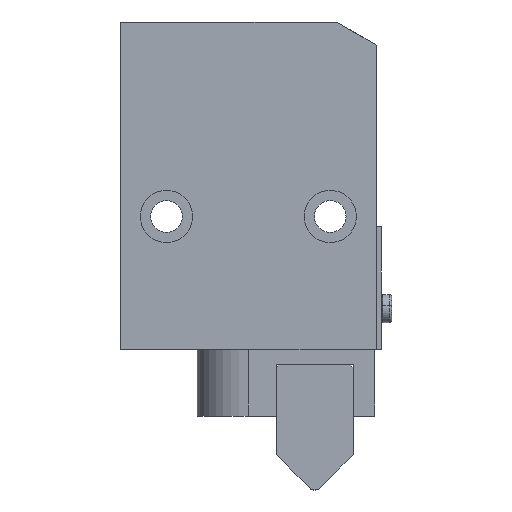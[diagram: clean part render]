
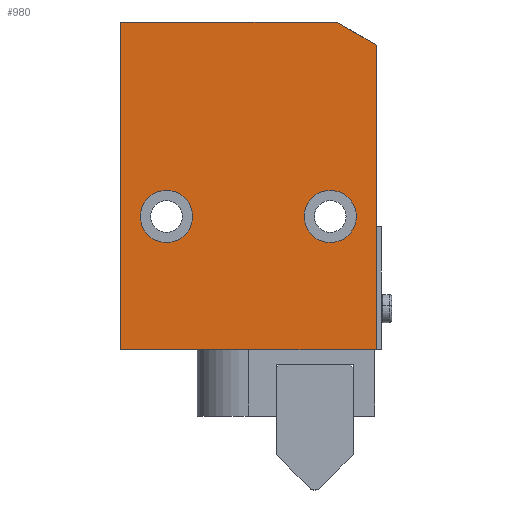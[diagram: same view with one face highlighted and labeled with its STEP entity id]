
A CAD part, front view. The second image highlights one B-rep face of the part: STEP entity #980.
In plain terms, the highlighted planar face has unit normal (0, -1, 0).
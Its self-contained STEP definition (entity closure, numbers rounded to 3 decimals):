
#2 = DIRECTION ( 'NONE',  ( 0., 1., 0. ) ) ;
#40 = LINE ( 'NONE', #1524, #3061 ) ;
#72 = EDGE_CURVE ( 'NONE', #3606, #411, #3096, .T. ) ;
#157 = DIRECTION ( 'NONE',  ( 0., 0., -1. ) ) ;
#175 = FACE_BOUND ( 'NONE', #3294, .T. ) ;
#400 = ORIENTED_EDGE ( 'NONE', *, *, #769, .T. ) ;
#411 = VERTEX_POINT ( 'NONE', #3005 ) ;
#425 = FACE_BOUND ( 'NONE', #3726, .T. ) ;
#431 = CARTESIAN_POINT ( 'NONE',  ( 4.206, -11.416, 72.4 ) ) ;
#454 = EDGE_CURVE ( 'NONE', #4118, #2505, #2603, .T. ) ;
#556 = CARTESIAN_POINT ( 'NONE',  ( 36.206, -11.416, 82.6 ) ) ;
#680 = EDGE_LOOP ( 'NONE', ( #2734, #3540, #5231, #2889, #4464 ) ) ;
#690 = PLANE ( 'NONE',  #1333 ) ;
#769 = EDGE_CURVE ( 'NONE', #2505, #4118, #1897, .T. ) ;
#980 = ADVANCED_FACE ( 'NONE', ( #3306, #175, #425 ), #690, .T. ) ;
#1025 = EDGE_CURVE ( 'NONE', #411, #2644, #40, .T. ) ;
#1134 = CARTESIAN_POINT ( 'NONE',  ( 45.206, -11.416, 115.5 ) ) ;
#1289 = CARTESIAN_POINT ( 'NONE',  ( 45.206, -11.416, 111. ) ) ;
#1327 = AXIS2_PLACEMENT_3D ( 'NONE', #1780, #4664, #2198 ) ;
#1333 = AXIS2_PLACEMENT_3D ( 'NONE', #3542, #3951, #1507 ) ;
#1476 = AXIS2_PLACEMENT_3D ( 'NONE', #4179, #1721, #4605 ) ;
#1507 = DIRECTION ( 'NONE',  ( 0., 0., -1. ) ) ;
#1524 = CARTESIAN_POINT ( 'NONE',  ( -4.794, -11.416, 51.5 ) ) ;
#1721 = DIRECTION ( 'NONE',  ( 0., 1., 0. ) ) ;
#1780 = CARTESIAN_POINT ( 'NONE',  ( 4.206, -11.416, 77.5 ) ) ;
#1897 = CIRCLE ( 'NONE', #4854, 5.1 ) ;
#1943 = VERTEX_POINT ( 'NONE', #3132 ) ;
#1989 = LINE ( 'NONE', #1134, #2955 ) ;
#2016 = EDGE_CURVE ( 'NONE', #1943, #3606, #2625, .T. ) ;
#2027 = DIRECTION ( 'NONE',  ( -1., 0., 0. ) ) ;
#2198 = DIRECTION ( 'NONE',  ( 0., 0., -1. ) ) ;
#2241 = DIRECTION ( 'NONE',  ( 0., 1., 0. ) ) ;
#2335 = CIRCLE ( 'NONE', #1327, 5.1 ) ;
#2457 = CARTESIAN_POINT ( 'NONE',  ( 36.206, -11.416, 77.5 ) ) ;
#2505 = VERTEX_POINT ( 'NONE', #4190 ) ;
#2603 = CIRCLE ( 'NONE', #5246, 5.1 ) ;
#2625 = LINE ( 'NONE', #4484, #4686 ) ;
#2644 = VERTEX_POINT ( 'NONE', #3041 ) ;
#2734 = ORIENTED_EDGE ( 'NONE', *, *, #5279, .T. ) ;
#2739 = LINE ( 'NONE', #4592, #3670 ) ;
#2866 = DIRECTION ( 'NONE',  ( 0., 0., -1. ) ) ;
#2889 = ORIENTED_EDGE ( 'NONE', *, *, #72, .T. ) ;
#2936 = VERTEX_POINT ( 'NONE', #1289 ) ;
#2955 = VECTOR ( 'NONE', #3583, 1000. ) ;
#2997 = CARTESIAN_POINT ( 'NONE',  ( -4.794, -11.416, 115.5 ) ) ;
#3005 = CARTESIAN_POINT ( 'NONE',  ( -4.794, -11.416, 51.5 ) ) ;
#3041 = CARTESIAN_POINT ( 'NONE',  ( 45.206, -11.416, 51.5 ) ) ;
#3061 = VECTOR ( 'NONE', #3964, 1000. ) ;
#3096 = LINE ( 'NONE', #2997, #5158 ) ;
#3132 = CARTESIAN_POINT ( 'NONE',  ( 37.411, -11.416, 115.5 ) ) ;
#3294 = EDGE_LOOP ( 'NONE', ( #400, #3370 ) ) ;
#3306 = FACE_OUTER_BOUND ( 'NONE', #680, .T. ) ;
#3370 = ORIENTED_EDGE ( 'NONE', *, *, #454, .T. ) ;
#3478 = CARTESIAN_POINT ( 'NONE',  ( -4.794, -11.416, 115.5 ) ) ;
#3540 = ORIENTED_EDGE ( 'NONE', *, *, #3977, .T. ) ;
#3542 = CARTESIAN_POINT ( 'NONE',  ( -4.794, -11.416, 51.5 ) ) ;
#3583 = DIRECTION ( 'NONE',  ( 0., 0., 1. ) ) ;
#3606 = VERTEX_POINT ( 'NONE', #3478 ) ;
#3670 = VECTOR ( 'NONE', #5005, 1000. ) ;
#3726 = EDGE_LOOP ( 'NONE', ( #5245, #4916 ) ) ;
#3768 = EDGE_CURVE ( 'NONE', #4037, #4217, #4582, .T. ) ;
#3951 = DIRECTION ( 'NONE',  ( 0., -1., 0. ) ) ;
#3964 = DIRECTION ( 'NONE',  ( 1., 0., 0. ) ) ;
#3977 = EDGE_CURVE ( 'NONE', #2936, #1943, #2739, .T. ) ;
#4037 = VERTEX_POINT ( 'NONE', #4155 ) ;
#4118 = VERTEX_POINT ( 'NONE', #556 ) ;
#4155 = CARTESIAN_POINT ( 'NONE',  ( 4.206, -11.416, 82.6 ) ) ;
#4179 = CARTESIAN_POINT ( 'NONE',  ( 4.206, -11.416, 77.5 ) ) ;
#4190 = CARTESIAN_POINT ( 'NONE',  ( 36.206, -11.416, 72.4 ) ) ;
#4217 = VERTEX_POINT ( 'NONE', #431 ) ;
#4464 = ORIENTED_EDGE ( 'NONE', *, *, #1025, .T. ) ;
#4484 = CARTESIAN_POINT ( 'NONE',  ( -4.794, -11.416, 115.5 ) ) ;
#4582 = CIRCLE ( 'NONE', #1476, 5.1 ) ;
#4592 = CARTESIAN_POINT ( 'NONE',  ( 33.47, -11.416, 117.776 ) ) ;
#4605 = DIRECTION ( 'NONE',  ( 0., 0., -1. ) ) ;
#4664 = DIRECTION ( 'NONE',  ( 0., 1., 0. ) ) ;
#4686 = VECTOR ( 'NONE', #2027, 1000. ) ;
#4715 = CARTESIAN_POINT ( 'NONE',  ( 36.206, -11.416, 77.5 ) ) ;
#4854 = AXIS2_PLACEMENT_3D ( 'NONE', #2457, #2, #2866 ) ;
#4916 = ORIENTED_EDGE ( 'NONE', *, *, #3768, .T. ) ;
#5005 = DIRECTION ( 'NONE',  ( -0.866, 0., 0.5 ) ) ;
#5060 = EDGE_CURVE ( 'NONE', #4217, #4037, #2335, .T. ) ;
#5125 = DIRECTION ( 'NONE',  ( 0., 0., -1. ) ) ;
#5158 = VECTOR ( 'NONE', #157, 1000. ) ;
#5231 = ORIENTED_EDGE ( 'NONE', *, *, #2016, .T. ) ;
#5245 = ORIENTED_EDGE ( 'NONE', *, *, #5060, .T. ) ;
#5246 = AXIS2_PLACEMENT_3D ( 'NONE', #4715, #2241, #5125 ) ;
#5279 = EDGE_CURVE ( 'NONE', #2644, #2936, #1989, .T. ) ;
